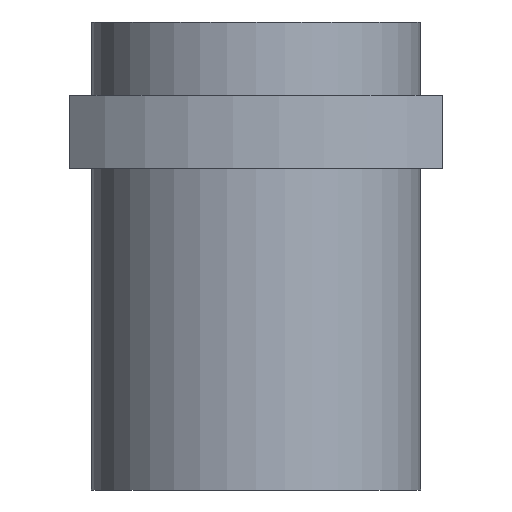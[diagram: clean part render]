
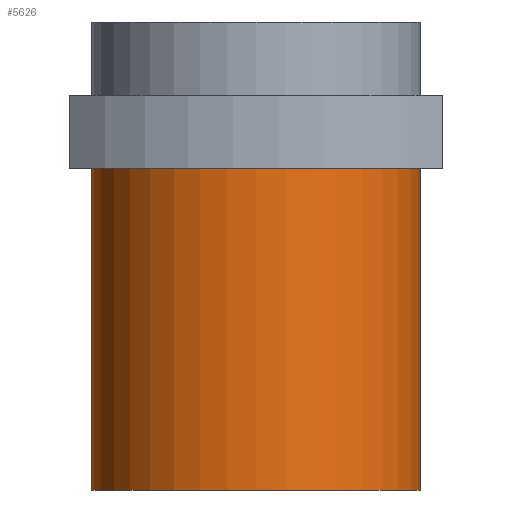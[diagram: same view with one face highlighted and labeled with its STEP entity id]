
A CAD part, left-side view. The second image highlights one B-rep face of the part: STEP entity #5626.
In plain terms, the highlighted cylindrical face has radius 22.5 mm (diameter 45 mm), a full revolution.
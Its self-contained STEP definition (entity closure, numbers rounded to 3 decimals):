
#85=CYLINDRICAL_SURFACE('',#5994,22.5);
#113=CIRCLE('',#5981,22.5);
#122=CIRCLE('',#5995,22.5);
#1714=ORIENTED_EDGE('',*,*,#3332,.T.);
#1715=ORIENTED_EDGE('',*,*,#3321,.T.);
#3321=EDGE_CURVE('',#4130,#4130,#113,.F.);
#3332=EDGE_CURVE('',#4139,#4139,#122,.T.);
#4130=VERTEX_POINT('',#8942);
#4139=VERTEX_POINT('',#8967);
#4607=EDGE_LOOP('',(#1714));
#4608=EDGE_LOOP('',(#1715));
#5016=FACE_BOUND('',#4607,.T.);
#5017=FACE_BOUND('',#4608,.T.);
#5626=ADVANCED_FACE('',(#5016,#5017),#85,.T.);
#5981=AXIS2_PLACEMENT_3D('',#8941,#6495,#6496);
#5994=AXIS2_PLACEMENT_3D('',#8965,#6523,#6524);
#5995=AXIS2_PLACEMENT_3D('',#8966,#6525,#6526);
#6495=DIRECTION('',(0.,0.,1.));
#6496=DIRECTION('',(0.,1.,0.));
#6523=DIRECTION('',(0.,0.,1.));
#6524=DIRECTION('',(0.,1.,0.));
#6525=DIRECTION('',(0.,0.,1.));
#6526=DIRECTION('',(0.,1.,0.));
#8941=CARTESIAN_POINT('',(0.,0.,-10.));
#8942=CARTESIAN_POINT('',(0.,22.5,-10.));
#8965=CARTESIAN_POINT('',(0.,0.,-54.));
#8966=CARTESIAN_POINT('',(0.,0.,-54.));
#8967=CARTESIAN_POINT('',(0.,22.5,-54.));
